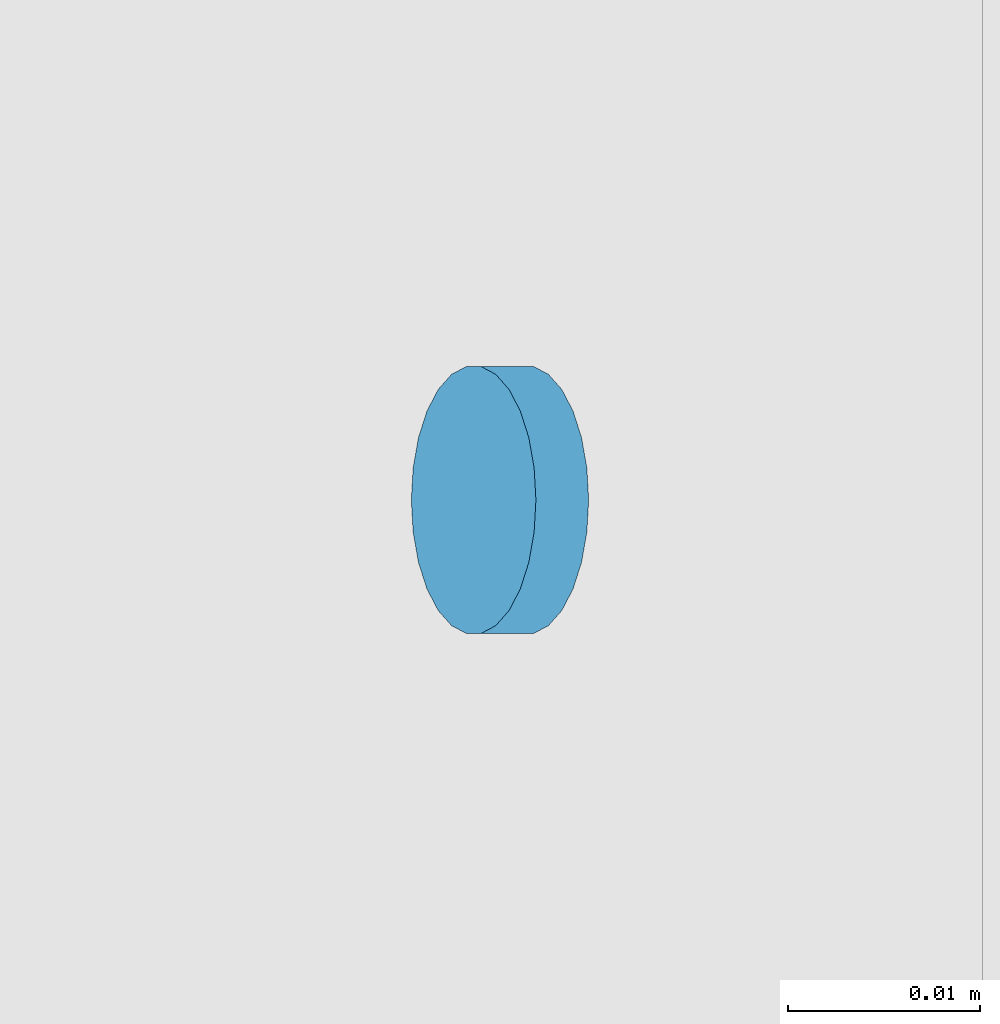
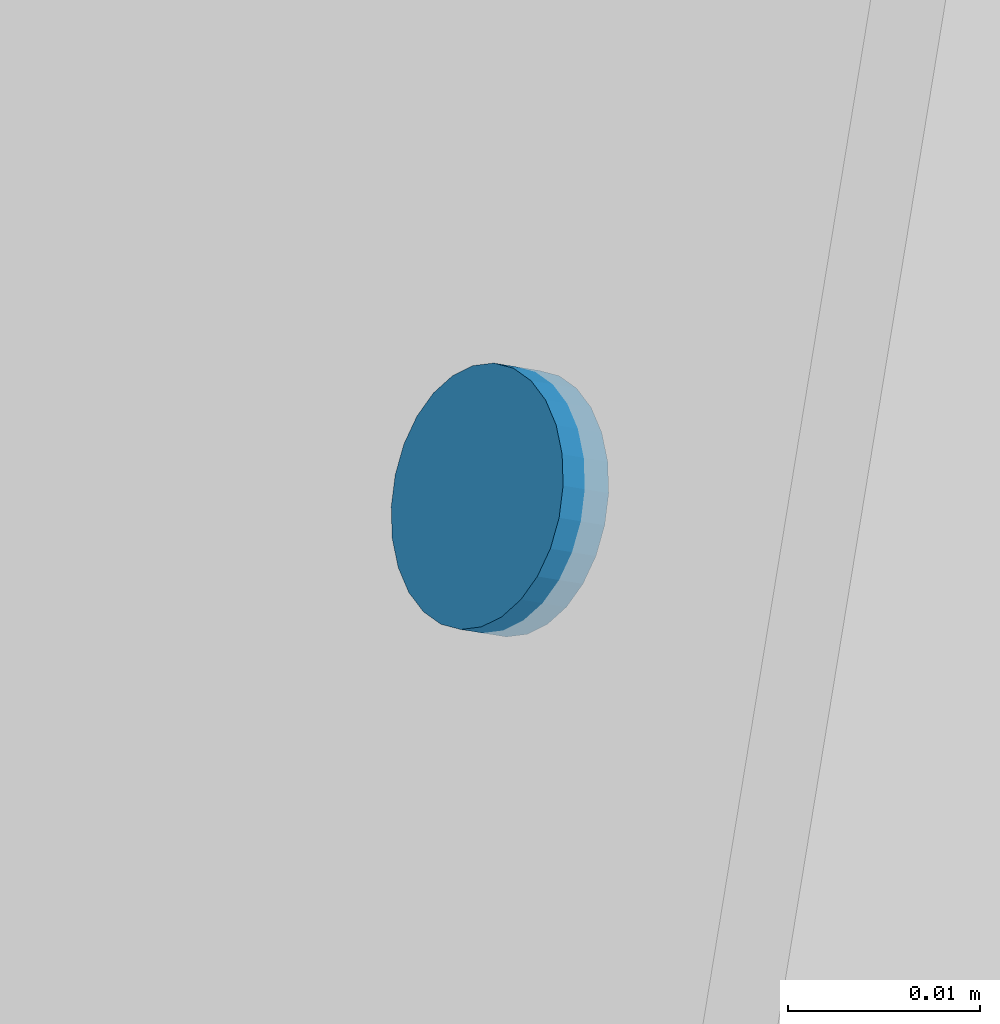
# One storey, part 284 of 362: 1 mechanical fastener.
"""IFC2X3 building model written with IfcOpenShell, lengths in millimetres."""

import ifcopenshell
import ifcopenshell.guid

model = None  # the IFC model being written
_history = None  # IfcOwnerHistory: only IFC2X3 demands one
_inside = {}  # id of a spatial element -> (the spatial element, [elements in it])
_under = {}  # id of a project, library or spatial element -> (it, [spatial elements below it])
_declared = {}  # id of a project -> (the project, [libraries it declares])
_typed = {}  # id of a type object -> (the type object, [elements of that type])
_made_of = {}  # id of a material, layer set ... -> (it, [elements and type objects made of it])


def new_model(schema):
    """Start an empty IFC model of exactly this schema.

    Asked for "IFC4X3", IfcOpenShell would pick the latest addendum, in which some entities
    have other attributes; the version numbers below select the first issue.
    IFC2X3 requires an IfcOwnerHistory on every rooted entity: one is made here for all.
    """
    global model, _history
    if schema == "IFC4X3":
        model = ifcopenshell.file(schema_version=(4, 3, 0, 0))
    else:
        model = ifcopenshell.file(schema=schema)
    _inside.clear()
    _under.clear()
    _declared.clear()
    _typed.clear()
    _made_of.clear()
    _history = None
    if model.schema == "IFC2X3":
        org = make("IfcOrganization", Name="unknown")
        user = make(
            "IfcPersonAndOrganization",
            ThePerson=make("IfcPerson", FamilyName="unknown"),
            TheOrganization=org,
        )
        app = make(
            "IfcApplication",
            ApplicationDeveloper=org,
            Version="unknown",
            ApplicationFullName="unknown",
            ApplicationIdentifier="unknown",
        )
        _history = make(
            "IfcOwnerHistory",
            OwningUser=user,
            OwningApplication=app,
            ChangeAction="ADDED",
            CreationDate=0,
        )
    return model


def make(cls, **values):
    """One entity of the class cls with the attributes given. An attribute that is None is left unset."""
    return model.create_entity(
        cls, **{name: value for name, value in values.items() if value is not None}
    )


def rooted(cls, **values):
    """An entity with a GlobalId (a new one), such as an element, a storey or a relation."""
    return make(cls, GlobalId=ifcopenshell.guid.new(), OwnerHistory=_history, **values)


def si_unit(unit_type, name, prefix=None):
    """IfcSIUnit, for example si_unit("LENGTHUNIT", "METRE", prefix="MILLI")."""
    return make("IfcSIUnit", UnitType=unit_type, Prefix=prefix, Name=name)


def assignment(units):
    """IfcUnitAssignment: the units of a project."""
    return None if units is None else make("IfcUnitAssignment", Units=units)


def point(xyz):
    """IfcCartesianPoint."""
    return None if xyz is None else make("IfcCartesianPoint", Coordinates=xyz)


def direction(xyz):
    """IfcDirection."""
    return None if xyz is None else make("IfcDirection", DirectionRatios=xyz)


def frame(location, z_axis=None, x_axis=None):
    """IfcAxis2Placement3D, a coordinate frame: its origin and axes. An axis left out is left unset."""
    return make(
        "IfcAxis2Placement3D",
        Location=point(location),
        Axis=direction(z_axis),
        RefDirection=direction(x_axis),
    )


def frame_2d(location, x_axis=None):
    """IfcAxis2Placement2D, a coordinate frame in the plane: its origin and x axis."""
    return make(
        "IfcAxis2Placement2D", Location=point(location), RefDirection=direction(x_axis)
    )


def origin_with_axes():
    """The frame at (0, 0, 0) with the z axis (0, 0, 1) and the x axis (1, 0, 0) written out."""
    return frame((0.0, 0.0, 0.0), z_axis=(0.0, 0.0, 1.0), x_axis=(1.0, 0.0, 0.0))


def origin_2d_with_axis():
    """The frame at (0, 0) in the plane with the x axis (1, 0) written out."""
    return frame_2d((0.0, 0.0), x_axis=(1.0, 0.0))


def place(relative_to, where):
    """IfcLocalPlacement: puts the frame where relative to a parent placement (None: the world)."""
    return make(
        "IfcLocalPlacement", PlacementRelTo=relative_to, RelativePlacement=where
    )


def context(
    kind, dimensions, precision=None, world=None, true_north=None, identifier=None
):
    """IfcGeometricRepresentationContext, for example the 3D "Model" context."""
    return make(
        "IfcGeometricRepresentationContext",
        ContextIdentifier=identifier,
        ContextType=kind,
        CoordinateSpaceDimension=dimensions,
        Precision=precision,
        WorldCoordinateSystem=world,
        TrueNorth=true_north,
    )


def subcontext(parent, identifier, kind, view, scale=None):
    """IfcGeometricRepresentationSubContext, for example "Body" below "Model"."""
    return make(
        "IfcGeometricRepresentationSubContext",
        ContextIdentifier=identifier,
        ContextType=kind,
        ParentContext=parent,
        TargetScale=scale,
        TargetView=view,
    )


def project(units=None, contexts=None):
    """IfcProject with its units and contexts."""
    return rooted(
        "IfcProject",
        Name="project",
        RepresentationContexts=contexts,
        UnitsInContext=assignment(units),
    )


def spatial(cls, under=None, at=None, **own):
    """A site, building, storey or space (cls), placed at a placement, below another one or the project."""
    s = rooted(cls, ObjectPlacement=at, **own)
    if under is not None:
        _under.setdefault(under.id(), (under, []))[1].append(s)
    return s


def profile(cls, at=None, kind="AREA", **sizes):
    """A parametric profile (cls). Its sizes go by their IFC names, for example OverallWidth=200.0."""
    return make(cls, ProfileType=kind, Position=at, **sizes)


def circle(**sizes):
    """IfcCircleProfileDef."""
    return profile("IfcCircleProfileDef", **sizes)


def extrude(swept, where, along, depth):
    """IfcExtrudedAreaSolid: the profile swept, set in the frame where, extruded along a direction by depth."""
    return make(
        "IfcExtrudedAreaSolid",
        SweptArea=swept,
        Position=where,
        ExtrudedDirection=direction(along),
        Depth=depth,
    )


def shape(context_of_items, identifier, shape_type, items):
    """IfcShapeRepresentation: the items that make up one representation, for example the "Body"."""
    return make(
        "IfcShapeRepresentation",
        ContextOfItems=context_of_items,
        RepresentationIdentifier=identifier,
        RepresentationType=shape_type,
        Items=items,
    )


def source(mapping_origin, context_of_items, identifier, shape_type, items):
    """IfcRepresentationMap: a shape defined once, which mapped items show again and again."""
    return make(
        "IfcRepresentationMap",
        MappingOrigin=mapping_origin,
        MappedRepresentation=shape(context_of_items, identifier, shape_type, items),
    )


def transform(
    local_origin,
    x_axis=None,
    y_axis=None,
    z_axis=None,
    scale=None,
    scale2=None,
    scale3=None,
    uniform=True,
):
    """IfcCartesianTransformationOperator3D, or its non-uniform kind. x_axis, y_axis, z_axis: its Axis1, 2, 3."""
    if uniform:
        return make(
            "IfcCartesianTransformationOperator3D",
            Axis1=direction(x_axis),
            Axis2=direction(y_axis),
            LocalOrigin=point(local_origin),
            Scale=scale,
            Axis3=direction(z_axis),
        )
    return make(
        "IfcCartesianTransformationOperator3DnonUniform",
        Axis1=direction(x_axis),
        Axis2=direction(y_axis),
        LocalOrigin=point(local_origin),
        Scale=scale,
        Axis3=direction(z_axis),
        Scale2=scale2,
        Scale3=scale3,
    )


def mapped(mapping_source, mapping_target):
    """IfcMappedItem: shows the shape of a source again, moved by a transform."""
    return make(
        "IfcMappedItem", MappingSource=mapping_source, MappingTarget=mapping_target
    )


def material(Name=None, Category=None):
    """IfcMaterial."""
    return make("IfcMaterial", Name=Name, Category=Category)


def made_of(thing, what):
    """Note that an element or type object is made of a material, layer set ...; save() writes the relation."""
    if what is not None:
        _made_of.setdefault(what.id(), (what, []))[1].append(thing)
    return thing


def type_object(cls, material=None, **own):
    """A type object (cls), such as IfcWallType, which elements share."""
    return made_of(rooted(cls, **own), material)


def element(
    cls,
    number,
    at=None,
    inside=None,
    cuts=None,
    type_object=None,
    material=None,
    context=None,
    identifier="Body",
    shape_type=None,
    held_by="IfcProductDefinitionShape",
    body=None,
    shapes=None,
    **own,
):
    """One element of the class cls, such as IfcWall. Its Tag is "e" and its number.

    at: its placement. inside: the storey or other place that contains it. cuts: it is an
    opening in that element (IfcRelVoidsElement). A single representation is given by context,
    identifier, shape_type and body (its items); several are given by shapes. held_by: the class
    of the entity that holds the representations. save() writes the other relations.
    """
    e = rooted(cls, Tag="e%d" % number, ObjectPlacement=at, **own)
    if body is not None:
        shapes = [shape(context, identifier, shape_type, body)]
    if shapes is not None:
        e.Representation = make(held_by, Representations=shapes)
    if inside is not None:
        _inside.setdefault(inside.id(), (inside, []))[1].append(e)
    if cuts is not None:
        rooted(
            "IfcRelVoidsElement", RelatingBuildingElement=cuts, RelatedOpeningElement=e
        )
    if type_object is not None:
        _typed.setdefault(type_object.id(), (type_object, []))[1].append(e)
    return made_of(e, material)


def aggregate(whole, parts):
    """IfcRelAggregates: a whole, such as a stair, and the parts it consists of."""
    return rooted("IfcRelAggregates", RelatingObject=whole, RelatedObjects=parts)


def save(model, path):
    """Write the relations noted so far, then the file.

    IfcRelAggregates (storeys below a building ...), IfcRelContainedInSpatialStructure (elements
    in a storey), IfcRelDefinesByType, IfcRelAssociatesMaterial and IfcRelDeclares: one each for
    every whole, place, type object, material and project.
    """
    for whole, parts in _under.values():
        aggregate(whole, parts)
    for where, things in _inside.values():
        rooted(
            "IfcRelContainedInSpatialStructure",
            RelatedElements=things,
            RelatingStructure=where,
        )
    for kind, things in _typed.values():
        rooted("IfcRelDefinesByType", RelatedObjects=things, RelatingType=kind)
    for what, things in _made_of.values():
        rooted("IfcRelAssociatesMaterial", RelatedObjects=things, RelatingMaterial=what)
    for by, libraries in _declared.values():
        rooted("IfcRelDeclares", RelatingContext=by, RelatedDefinitions=libraries)
    model.write(path)


model = new_model("IFC2X3")

# Units and contexts
model_context = context("Model", 3, precision=1e-05, world=origin_with_axes())
body_context = subcontext(model_context, "Body", "Model", "MODEL_VIEW")
ifc_project = project(units=[si_unit("LENGTHUNIT", "METRE", prefix="MILLI"), si_unit("AREAUNIT", "SQUARE_METRE"), si_unit("VOLUMEUNIT", "CUBIC_METRE"), si_unit("MASSUNIT", "GRAM", prefix="KILO"), si_unit("TIMEUNIT", "SECOND"), si_unit("PLANEANGLEUNIT", "RADIAN"), si_unit("SOLIDANGLEUNIT", "STERADIAN"), si_unit("THERMODYNAMICTEMPERATUREUNIT", "DEGREE_CELSIUS"), si_unit("LUMINOUSINTENSITYUNIT", "LUMEN")], contexts=[model_context])

# Site, building, storey
site_placement = place(None, origin_with_axes())
site = spatial("IfcSite", under=ifc_project, at=site_placement, Name="Undefined", CompositionType="ELEMENT")
building_placement = place(site_placement, origin_with_axes())
building = spatial("IfcBuilding", under=site, at=building_placement, Name="Undefined", CompositionType="ELEMENT")
storey_placement = place(building_placement, origin_with_axes())
storey = spatial("IfcBuildingStorey", under=building, at=storey_placement, Name="Undefined", CompositionType="ELEMENT", Elevation=0.0)

# Mechanical fastener
ifc_material = material(Name="6.8")
mechanical_fastener_type = type_object("IfcMechanicalFastenerType", Name="Bolt assembly")
shared_shape = source(origin_with_axes(), body_context, "Body", "SweptSolid", [
    extrude(circle(Radius=7.0, at=origin_2d_with_axis()), frame((0.0, 0.0, 0.0), z_axis=(0.0, 1.0, 0.0), x_axis=(1.0, 0.0, 0.0)), (0.0, 0.0, 1.0), 3.1),
])
mechanical_fastener_placement = place(storey_placement, frame((19643.5016489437, 13300.0, 8857.28871371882), z_axis=(0.0, -1.0, 0.0), x_axis=(-0.463528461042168, 0.0, -0.886082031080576)))
element("IfcMechanicalFastener", 1, at=mechanical_fastener_placement, inside=storey, type_object=mechanical_fastener_type, material=ifc_material, Name="Bolt assembly", NominalDiameter=12.0, NominalLength=3.0, context=body_context, shape_type="MappedRepresentation", body=[
    mapped(shared_shape, transform((0.0, 0.0, 0.0))),
])

save(model, "model.ifc")
